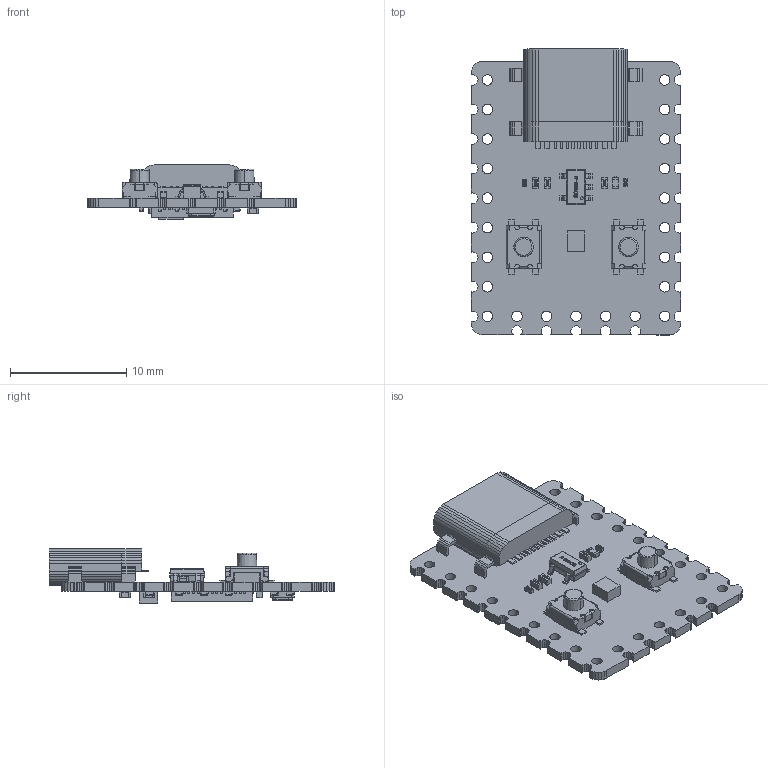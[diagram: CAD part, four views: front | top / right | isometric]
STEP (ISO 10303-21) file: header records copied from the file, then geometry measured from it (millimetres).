
FILE_DESCRIPTION(('Open CASCADE Model'),'2;1');
FILE_NAME('Open CASCADE Shape Model','2024-11-01T15:09:52',('Author'),( 'Open CASCADE'),'Open CASCADE STEP processor 6.5','Open CASCADE 6.5' ,'Unknown');
FILE_SCHEMA(('AUTOMOTIVE_DESIGN { 1 0 10303 214 1 1 1 1 }'));
Length unit declared in the file: millimetre
Products named in the file (59): PCB; Board; Type_C1; User_Library-TYPE-C-31-M-14; C12; C_0402; C_0402-4045_AF0_ASM; C_0402-672_AF0_ASM; _1_10001; 3_1_A; 2_100; C4; User_Library-0201(0603M)_Cap; C2; C3; C5; C6; C7; C8; C9; C10; C11; C1; C13; C16; C15; C17; C18; Key1; ts-1185ec-a-e-a-1; Key2; L1; 942458512; Extruded; L2; 942458256; R1; User_Library-RES_0603-0201; R2; R3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
Assembly tree (87 placements, depth 6):
  PCB
    Board
    Type_C1
      User_Library-TYPE-C-31-M-14
    C12
      C_0402
        C_0402-4045_AF0_ASM
          C_0402-672_AF0_ASM
            _1_10001
            3_1_A
            2_100
    C4
      User_Library-0201(0603M)_Cap
    C2
      User_Library-0201(0603M)_Cap
    C3
      C_0402
        C_0402-4045_AF0_ASM
          C_0402-672_AF0_ASM
            _1_10001
            3_1_A
            2_100
    C5
      User_Library-0201(0603M)_Cap
    C6
      User_Library-0201(0603M)_Cap
    C7
      User_Library-0201(0603M)_Cap
    C8
      User_Library-0201(0603M)_Cap
    C9
      User_Library-0201(0603M)_Cap
    C10
      User_Library-0201(0603M)_Cap
    C11
      User_Library-0201(0603M)_Cap
    C1
      User_Library-0201(0603M)_Cap
    C13
      C_0402
        C_0402-4045_AF0_ASM
          C_0402-672_AF0_ASM
            _1_10001
            3_1_A
            2_100
    C16
      C_0402
        C_0402-4045_AF0_ASM
          C_0402-672_AF0_ASM
            _1_10001
            3_1_A
            2_100
    C15
      C_0402
        C_0402-4045_AF0_ASM
          C_0402-672_AF0_ASM
            _1_10001
            3_1_A
            2_100
    C17
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Bounding box: 18.02 x 24.58 x 4.66 mm (x, y, z)
Volume: 532.6 mm3; surface area: 2117.9 mm2
Topology: 130 solids, 130 shells, 8808 faces, 23556 edges, 15316 vertices
Faces by surface type: plane 6121, bspline 916, cylinder 816, extrusion 794, sphere 105, torus 52, cone 4
Full cylindrical faces by diameter (mm): 0.7 x2, 0.9 x23
Entity records: 316792 total; most frequent: CARTESIAN_POINT 91114, DIRECTION 36956, VECTOR 27750, LINE 27502, ORIENTED_EDGE 22342, PCURVE 22342, DEFINITIONAL_REPRESENTATION 22342, EDGE_CURVE 11171
